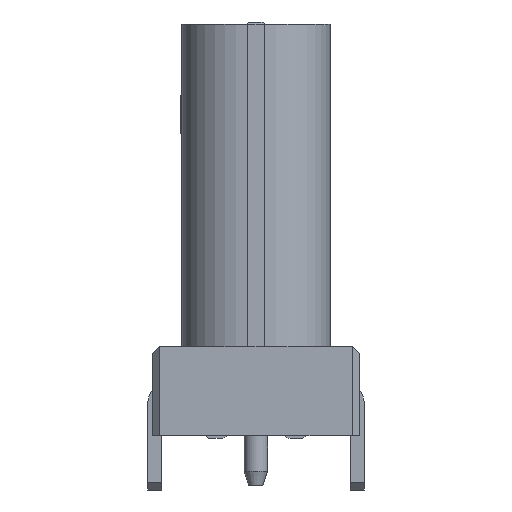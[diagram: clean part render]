
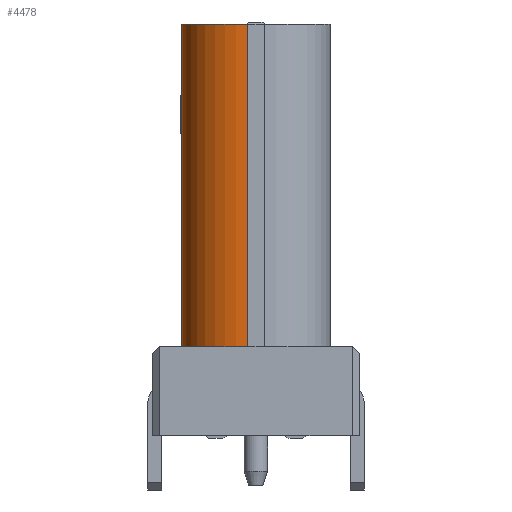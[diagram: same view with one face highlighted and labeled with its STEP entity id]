
A CAD part, left-side view. The second image highlights one B-rep face of the part: STEP entity #4478.
In plain terms, the highlighted cylindrical face has radius 1.4 mm (diameter 2.8 mm), a partial arc.
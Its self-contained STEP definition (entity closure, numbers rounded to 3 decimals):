
#1516=CARTESIAN_POINT('',(-64.47,-0.471,-45.273));
#1517=VERTEX_POINT('',#1516);
#1524=CARTESIAN_POINT('',(-64.47,-0.471,-38.423));
#1525=VERTEX_POINT('',#1524);
#1526=CARTESIAN_POINT('',(-64.47,-0.471,-45.273));
#1527=DIRECTION('',(0.,0.0,1.0));
#1528=VECTOR('',#1527,1.0);
#1529=LINE('',#1526,#1528);
#1530=EDGE_CURVE('no 59887',#1517,#1525,#1529,.T.);
#2372=CARTESIAN_POINT('',(-65.87,-1.871,-45.273));
#2373=VERTEX_POINT('',#2372);
#2380=CARTESIAN_POINT('',(-64.47,-1.871,-45.273));
#2381=DIRECTION('',(0.0,-0.0,1.0));
#2382=DIRECTION('',(0.,1.0,0.0));
#2383=AXIS2_PLACEMENT_3D('',#2380,#2381,#2382);
#2384=CIRCLE('',#2383,1.4);
#2385=EDGE_CURVE('no 25310',#1517,#2373,#2384,.T.);
#4454=ORIENTED_EDGE('no 315',*,*,#1530,.F.);
#4455=ORIENTED_EDGE('no 45764',*,*,#2385,.T.);
#4456=CARTESIAN_POINT('',(-65.87,-1.871,-38.423));
#4457=VERTEX_POINT('',#4456);
#4458=CARTESIAN_POINT('',(-65.87,-1.871,-38.423));
#4459=DIRECTION('',(0.0,0.0,-1.0));
#4460=VECTOR('',#4459,1.0);
#4461=LINE('',#4458,#4460);
#4462=EDGE_CURVE('no 22478',#4457,#2373,#4461,.T.);
#4463=ORIENTED_EDGE('no 51956',*,*,#4462,.F.);
#4464=CARTESIAN_POINT('',(-64.47,-1.871,-38.423));
#4465=DIRECTION('',(0.0,0.0,1.0));
#4466=DIRECTION('',(-0.0,1.0,0.0));
#4467=AXIS2_PLACEMENT_3D('',#4464,#4465,#4466);
#4468=CIRCLE('',#4467,1.4);
#4469=EDGE_CURVE('no 16194',#1525,#4457,#4468,.T.);
#4470=ORIENTED_EDGE('no 53187',*,*,#4469,.F.);
#4471=EDGE_LOOP('',(#4454,#4455,#4463,#4470));
#4472=FACE_OUTER_BOUND('',#4471,.T.);
#4473=CARTESIAN_POINT('',(-64.47,-1.871,-45.42));
#4474=DIRECTION('',(0.0,0.0,1.0));
#4475=DIRECTION('',(0.707,-0.707,0.0));
#4476=AXIS2_PLACEMENT_3D('',#4473,#4474,#4475);
#4477=CYLINDRICAL_SURFACE('',#4476,1.4);
#4478=ADVANCED_FACE('no 60313',(#4472),#4477,.T.);
